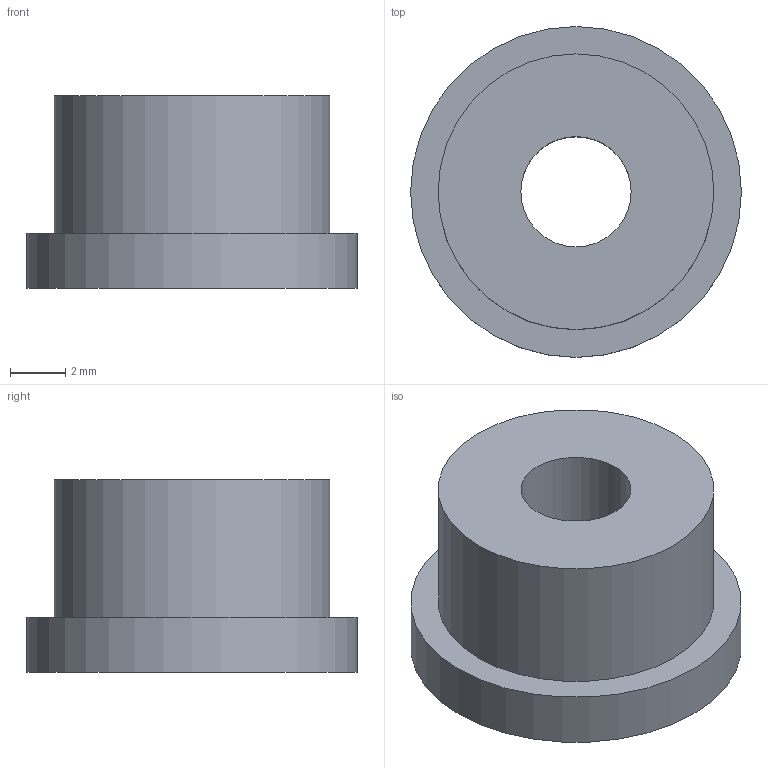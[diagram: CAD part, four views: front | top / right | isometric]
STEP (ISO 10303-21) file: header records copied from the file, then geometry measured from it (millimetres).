
FILE_DESCRIPTION(/* description */ ('Bushing'),/* implementation_level */ '2;1');
FILE_NAME(/* name */ 'Z:\Werkstatt Server\Projekte\Atlas\Entwicklung u. Konstruktion\Konstruktion\CAD Daten\ITkPixToolV2.0\Baremodule Jig\ITPTv2.01.00.17.stp',/* time_stamp */ '2021-08-06T14:56:24+02:00',/* author */ ('Tim Kanngießer'),/* organization */ (''),/* preprocessor_version */ 'ST-DEVELOPER v18.1',/* originating_system */ 'Autodesk Inventor 2022',/* authorisation */ '');
FILE_SCHEMA (('AUTOMOTIVE_DESIGN { 1 0 10303 214 3 1 1 }'));
Length unit declared in the file: millimetre
Products named in the file (1): ITPTv2.01.00.17
Bounding box: 12 x 12 x 7 mm (x, y, z)
Volume: 530.9 mm3; surface area: 521.5 mm2
Topology: 1 solids, 1 shells, 6 faces, 9 edges, 6 vertices
Faces by surface type: cylinder 3, plane 3
Full cylindrical faces by diameter (mm): 4 x1, 10 x1, 12 x1
Entity records: 193 total; most frequent: DIRECTION 29, CARTESIAN_POINT 22, ORIENTED_EDGE 18, AXIS2_PLACEMENT_3D 13, EDGE_LOOP 9, EDGE_CURVE 9, FACE_OUTER_BOUND 6, CIRCLE 6
